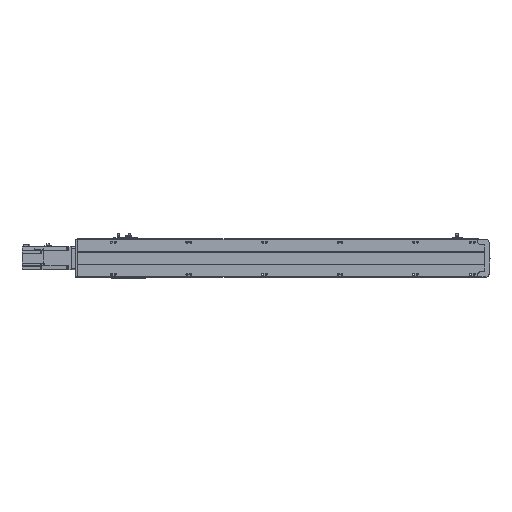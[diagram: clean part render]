
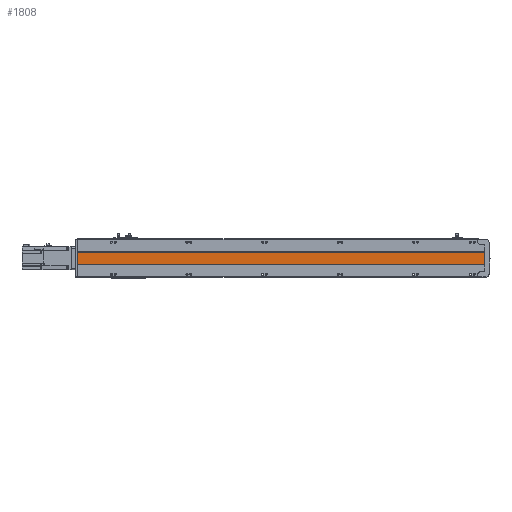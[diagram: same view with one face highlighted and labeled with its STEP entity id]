
A CAD part, front view. The second image highlights one B-rep face of the part: STEP entity #1808.
In plain terms, the highlighted planar face has unit normal (0, -1, 0).
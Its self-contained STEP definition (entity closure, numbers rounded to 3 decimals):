
#1808 = ADVANCED_FACE( '', ( #3931 ), #3932, .F. );
#3931 = FACE_OUTER_BOUND( '', #6366, .T. );
#3932 = PLANE( '', #6367 );
#6366 = EDGE_LOOP( '', ( #11357, #11358, #11359, #11360 ) );
#6367 = AXIS2_PLACEMENT_3D( '', #11361, #11362, #11363 );
#11357 = ORIENTED_EDGE( '', *, *, #15847, .F. );
#11358 = ORIENTED_EDGE( '', *, *, #15848, .T. );
#11359 = ORIENTED_EDGE( '', *, *, #15849, .T. );
#11360 = ORIENTED_EDGE( '', *, *, #15020, .F. );
#11361 = CARTESIAN_POINT( '', ( 1097., 1., 16. ) );
#11362 = DIRECTION( '', ( 0., 1., 0. ) );
#11363 = DIRECTION( '', ( 0., 0., 1. ) );
#15020 = EDGE_CURVE( '', #18395, #18398, #18399, .T. );
#15847 = EDGE_CURVE( '', #19570, #18395, #19571, .T. );
#15848 = EDGE_CURVE( '', #19570, #19572, #19573, .T. );
#15849 = EDGE_CURVE( '', #19572, #18398, #19574, .T. );
#18395 = VERTEX_POINT( '', #23141 );
#18398 = VERTEX_POINT( '', #23145 );
#18399 = LINE( '', #23146, #23147 );
#19570 = VERTEX_POINT( '', #25012 );
#19571 = LINE( '', #25013, #25014 );
#19572 = VERTEX_POINT( '', #25015 );
#19573 = LINE( '', #25016, #25017 );
#19574 = LINE( '', #25018, #25019 );
#23141 = CARTESIAN_POINT( '', ( 1083.5, 1., -16. ) );
#23145 = CARTESIAN_POINT( '', ( 6., 1., -16. ) );
#23146 = CARTESIAN_POINT( '', ( 1097., 1., -16. ) );
#23147 = VECTOR( '', #27312, 1000. );
#25012 = CARTESIAN_POINT( '', ( 1083.5, 1., 16. ) );
#25013 = CARTESIAN_POINT( '', ( 1083.5, 1., 16. ) );
#25014 = VECTOR( '', #28206, 1000. );
#25015 = CARTESIAN_POINT( '', ( 6., 1., 16. ) );
#25016 = CARTESIAN_POINT( '', ( 1097., 1., 16. ) );
#25017 = VECTOR( '', #28207, 1000. );
#25018 = CARTESIAN_POINT( '', ( 6., 1., 16. ) );
#25019 = VECTOR( '', #28208, 1000. );
#27312 = DIRECTION( '', ( -1., 0., 0. ) );
#28206 = DIRECTION( '', ( 0., 0., -1. ) );
#28207 = DIRECTION( '', ( -1., 0., 0. ) );
#28208 = DIRECTION( '', ( 0., 0., -1. ) );
